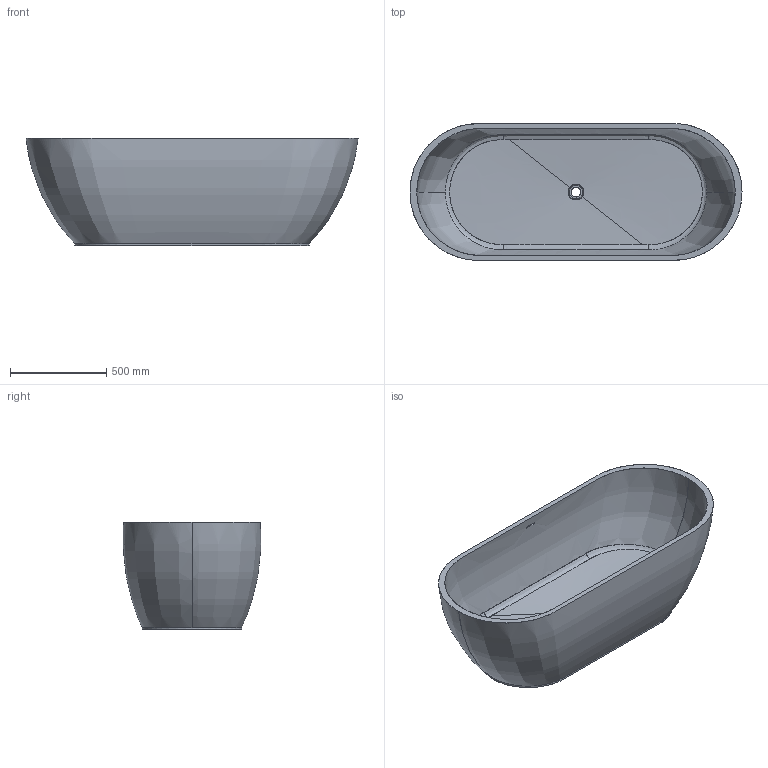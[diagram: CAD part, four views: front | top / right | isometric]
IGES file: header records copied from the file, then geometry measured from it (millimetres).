
Global section: file name: C:\Users\son\Desktop\igs\BW-02-L.igs; native system: Rhinoceros ( Jul  9 2019 ); preprocessor: Trout Lake IGES 012 Jul  9 2019; date: 200407.133818; units: millimetre
Bounding box: 1725.5 x 715.76 x 558.1 mm (x, y, z)
Surface area: 5681851.3 mm2 (no closed solid volume)
Topology: 0 solids, 0 shells, 73 faces, 4555 edges, 4551 vertices
Faces by surface type: bspline 73
